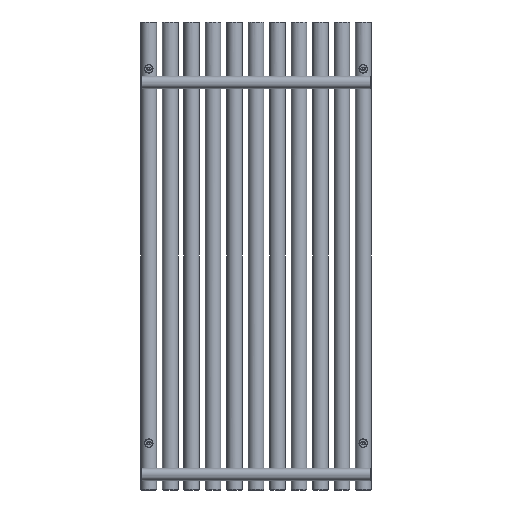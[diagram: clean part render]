
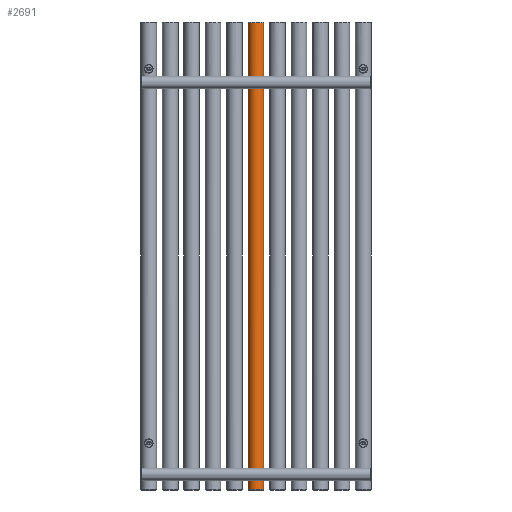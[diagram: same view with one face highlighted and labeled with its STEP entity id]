
A CAD part, front view. The second image highlights one B-rep face of the part: STEP entity #2691.
In plain terms, the highlighted cylindrical face has radius 20 mm (diameter 40 mm), a full revolution.
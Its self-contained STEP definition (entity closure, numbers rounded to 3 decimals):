
#205=FACE_BOUND('',#653,.T.);
#206=FACE_BOUND('',#654,.T.);
#250=LINE('',#5586,#330);
#330=VECTOR('',#3364,20.);
#410=CYLINDRICAL_SURFACE('',#2932,20.);
#453=FACE_OUTER_BOUND('',#652,.T.);
#652=EDGE_LOOP('',(#1917,#1918,#1919,#1920,#1921));
#653=EDGE_LOOP('',(#1922));
#654=EDGE_LOOP('',(#1923));
#878=B_SPLINE_CURVE_WITH_KNOTS('',3,(#5561,#5562,#5563,#5564,#5565,#5566,
#5567,#5568,#5569,#5570,#5571,#5572,#5573,#5574,#5575,#5576,#5577,#5578,
#5579,#5580),.UNSPECIFIED.,.T.,.F.,(4,1,1,1,1,1,1,1,1,1,1,1,1,1,1,1,1,4),
(-5.132,-4.765,-4.399,-3.91,
-3.788,-3.666,-3.421,-3.177,
-2.933,-2.444,-2.199,-1.955,
-1.711,-1.466,-1.1,-0.733,
-0.367,0.),.UNSPECIFIED.);
#879=B_SPLINE_CURVE_WITH_KNOTS('',3,(#5590,#5591,#5592,#5593,#5594,#5595,
#5596,#5597,#5598,#5599,#5600,#5601,#5602,#5603,#5604,#5605,#5606,#5607,
#5608),.UNSPECIFIED.,.T.,.F.,(4,1,1,1,1,1,1,1,1,1,1,1,1,1,1,1,4),(-5.132,
-4.765,-4.399,-3.91,-3.666,-3.421,
-3.177,-2.933,-2.444,-2.199,
-1.955,-1.711,-1.466,-1.1,-0.733,
-0.367,0.),.UNSPECIFIED.);
#959=CIRCLE('',#2933,20.);
#960=CIRCLE('',#2934,20.);
#961=CIRCLE('',#2935,20.);
#1197=VERTEX_POINT('',#5559);
#1198=VERTEX_POINT('',#5582);
#1199=VERTEX_POINT('',#5583);
#1200=VERTEX_POINT('',#5585);
#1201=VERTEX_POINT('',#5589);
#1485=EDGE_CURVE('',#1197,#1197,#878,.T.);
#1486=EDGE_CURVE('',#1198,#1199,#959,.T.);
#1487=EDGE_CURVE('',#1198,#1200,#250,.T.);
#1488=EDGE_CURVE('',#1200,#1200,#960,.T.);
#1489=EDGE_CURVE('',#1199,#1198,#961,.T.);
#1490=EDGE_CURVE('',#1201,#1201,#879,.T.);
#1917=ORIENTED_EDGE('',*,*,#1486,.F.);
#1918=ORIENTED_EDGE('',*,*,#1487,.T.);
#1919=ORIENTED_EDGE('',*,*,#1488,.F.);
#1920=ORIENTED_EDGE('',*,*,#1487,.F.);
#1921=ORIENTED_EDGE('',*,*,#1489,.F.);
#1922=ORIENTED_EDGE('',*,*,#1490,.F.);
#1923=ORIENTED_EDGE('',*,*,#1485,.F.);
#2691=ADVANCED_FACE('',(#453,#205,#206),#410,.T.);
#2932=AXIS2_PLACEMENT_3D('',#5581,#3360,#3361);
#2933=AXIS2_PLACEMENT_3D('',#5584,#3362,#3363);
#2934=AXIS2_PLACEMENT_3D('',#5587,#3365,#3366);
#2935=AXIS2_PLACEMENT_3D('',#5588,#3367,#3368);
#3360=DIRECTION('center_axis',(0.,0.,1.));
#3361=DIRECTION('ref_axis',(-1.,0.,0.));
#3362=DIRECTION('center_axis',(0.,0.,1.));
#3363=DIRECTION('ref_axis',(-1.,0.,0.));
#3364=DIRECTION('',(0.,0.,-1.));
#3365=DIRECTION('center_axis',(0.,0.,-1.));
#3366=DIRECTION('ref_axis',(-1.,0.,0.));
#3367=DIRECTION('center_axis',(0.,0.,1.));
#3368=DIRECTION('ref_axis',(-1.,0.,0.));
#5559=CARTESIAN_POINT('',(-275.,-20.,50.1));
#5561=CARTESIAN_POINT('Ctrl Pts',(-275.,-20.,50.1));
#5562=CARTESIAN_POINT('Ctrl Pts',(-276.611,-20.,50.1));
#5563=CARTESIAN_POINT('Ctrl Pts',(-279.831,-19.609,49.581));
#5564=CARTESIAN_POINT('Ctrl Pts',(-284.316,-17.862,46.748));
#5565=CARTESIAN_POINT('Ctrl Pts',(-286.001,-16.692,42.52));
#5566=CARTESIAN_POINT('Ctrl Pts',(-285.992,-16.71,39.163));
#5567=CARTESIAN_POINT('Ctrl Pts',(-285.668,-16.918,36.969));
#5568=CARTESIAN_POINT('Ctrl Pts',(-284.648,-17.555,34.43));
#5569=CARTESIAN_POINT('Ctrl Pts',(-282.535,-18.589,32.082));
#5570=CARTESIAN_POINT('Ctrl Pts',(-278.836,-19.82,30.087));
#5571=CARTESIAN_POINT('Ctrl Pts',(-274.419,-20.202,29.641));
#5572=CARTESIAN_POINT('Ctrl Pts',(-270.239,-19.503,30.58));
#5573=CARTESIAN_POINT('Ctrl Pts',(-267.466,-18.591,32.084));
#5574=CARTESIAN_POINT('Ctrl Pts',(-265.351,-17.553,34.428));
#5575=CARTESIAN_POINT('Ctrl Pts',(-263.927,-16.66,37.981));
#5576=CARTESIAN_POINT('Ctrl Pts',(-263.921,-16.659,42.598));
#5577=CARTESIAN_POINT('Ctrl Pts',(-266.137,-18.052,47.027));
#5578=CARTESIAN_POINT('Ctrl Pts',(-270.165,-19.6,49.585));
#5579=CARTESIAN_POINT('Ctrl Pts',(-273.389,-20.,50.1));
#5580=CARTESIAN_POINT('Ctrl Pts',(-275.,-20.,50.1));
#5581=CARTESIAN_POINT('Origin',(-275.,0.,0.));
#5582=CARTESIAN_POINT('',(-255.,0.,1198.));
#5583=CARTESIAN_POINT('',(-295.,0.,1198.));
#5584=CARTESIAN_POINT('Origin',(-275.,0.,1198.));
#5585=CARTESIAN_POINT('',(-255.,0.,2.));
#5586=CARTESIAN_POINT('',(-255.,0.,0.));
#5587=CARTESIAN_POINT('Origin',(-275.,0.,2.));
#5588=CARTESIAN_POINT('Origin',(-275.,0.,1198.));
#5589=CARTESIAN_POINT('',(-275.,-20.,1055.1));
#5590=CARTESIAN_POINT('Ctrl Pts',(-275.,-20.,1055.1));
#5591=CARTESIAN_POINT('Ctrl Pts',(-276.611,-20.,1055.1));
#5592=CARTESIAN_POINT('Ctrl Pts',(-279.83,-19.611,1054.58));
#5593=CARTESIAN_POINT('Ctrl Pts',(-284.319,-17.859,1051.751));
#5594=CARTESIAN_POINT('Ctrl Pts',(-286.21,-16.549,1046.99));
#5595=CARTESIAN_POINT('Ctrl Pts',(-285.867,-16.8,1042.472));
#5596=CARTESIAN_POINT('Ctrl Pts',(-284.651,-17.553,1039.432));
#5597=CARTESIAN_POINT('Ctrl Pts',(-282.534,-18.59,1037.082));
#5598=CARTESIAN_POINT('Ctrl Pts',(-278.837,-19.819,1035.088));
#5599=CARTESIAN_POINT('Ctrl Pts',(-274.419,-20.203,1034.641));
#5600=CARTESIAN_POINT('Ctrl Pts',(-270.24,-19.503,1035.58));
#5601=CARTESIAN_POINT('Ctrl Pts',(-267.467,-18.593,1037.084));
#5602=CARTESIAN_POINT('Ctrl Pts',(-265.351,-17.554,1039.428));
#5603=CARTESIAN_POINT('Ctrl Pts',(-263.928,-16.664,1042.98));
#5604=CARTESIAN_POINT('Ctrl Pts',(-263.923,-16.658,1047.598));
#5605=CARTESIAN_POINT('Ctrl Pts',(-266.135,-18.048,1052.029));
#5606=CARTESIAN_POINT('Ctrl Pts',(-270.165,-19.6,1054.585));
#5607=CARTESIAN_POINT('Ctrl Pts',(-273.389,-20.,1055.1));
#5608=CARTESIAN_POINT('Ctrl Pts',(-275.,-20.,1055.1));
